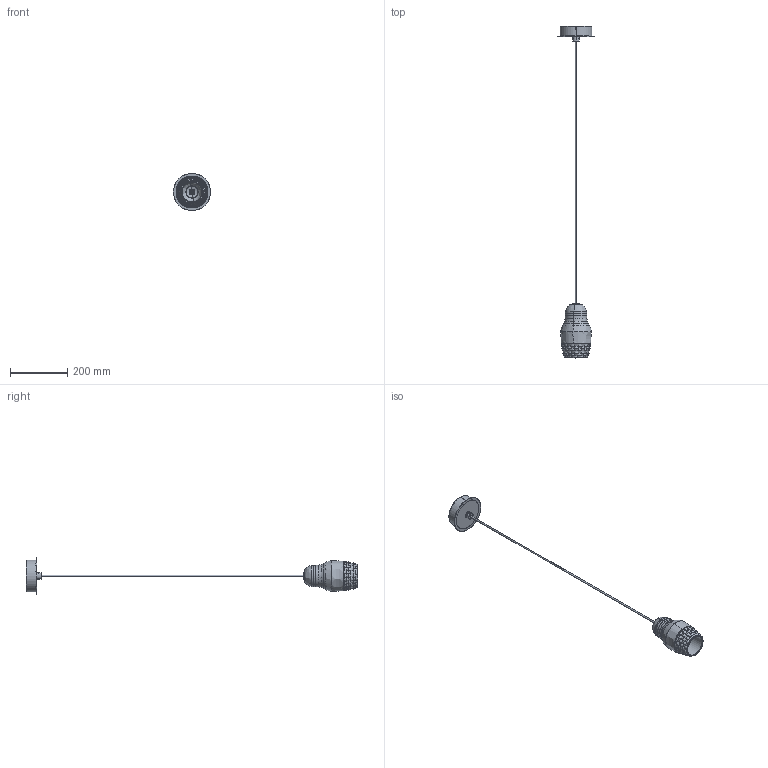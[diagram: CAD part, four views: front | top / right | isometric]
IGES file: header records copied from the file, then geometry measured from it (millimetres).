
Start section: SolidWorks IGES file using analytic representation for surfaces
Global section: file name: \\STORAGE\Tecnico Condiviso\1 FASCICOLI TECNICI\AXO DESIGN\AXO007-FEDORA\20150702-FEDORA CE\SP1\SW\SPFEDORA01-PER 3D.IGS; native system: SolidWorks 2024; preprocessor: SolidWorks 2024; author: tecnico3; date: 240529.125617; units: millimetre
Bounding box: 130 x 1162.53 x 130 mm (x, y, z)
Surface area: 221075.6 mm2 (no closed solid volume)
Topology: 0 solids, 0 shells, 389 faces, 4245 edges, 4245 vertices
Faces by surface type: bspline 338, revolution 51
